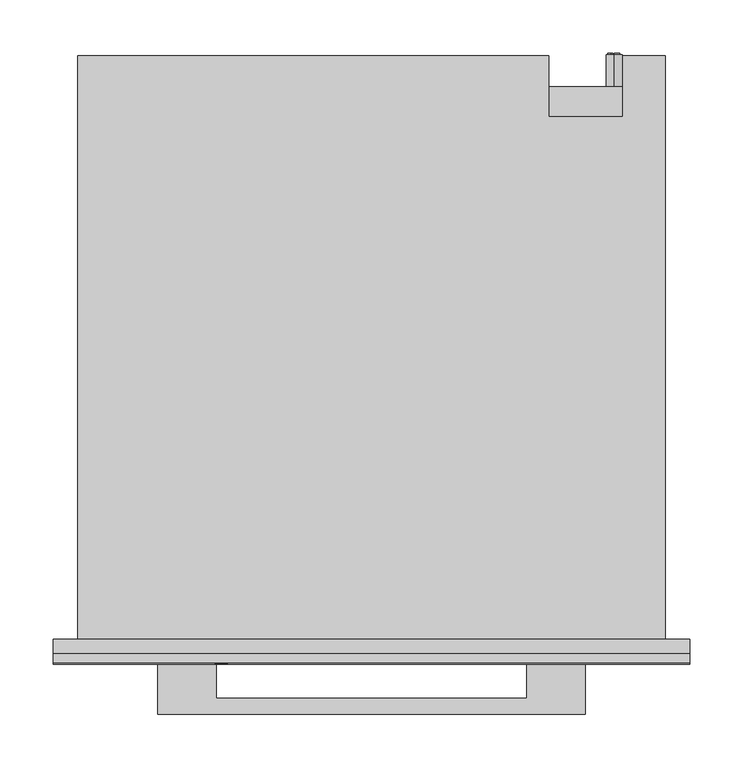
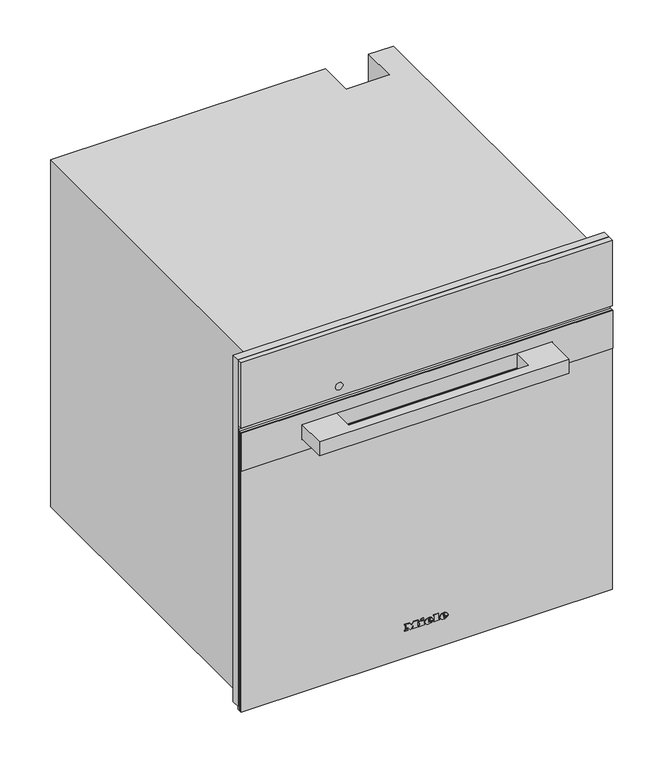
"""IFC4 building model written with IfcOpenShell, lengths in millimetres: proxy geometry, 11107260_D_DGC7860_EDST-CLST : 23786043_D_11107260_DGC7860_EDST-CLST."""

from ifc_helpers import new_model, si_unit, point, frame, frame_2d, origin, place, context, project, spatial, polyline, circle_curve, ellipse_curve, trimmed, segment, composite_curve, outline, extrude, faceted_brep, source, transform, mapped, element, save
from ifc_brep_helpers import plane_surface, cylinder_surface, revolved_surface, extruded_surface, advanced_brep


def specialty_equipment_7ab78854(model_context):
    return source(origin(), model_context, "Body", "SolidModel", [
        extrude(outline(polyline([(596.0, 297.5), (596.0, -297.5), (9.0, -297.5), (9.0, 297.5), (596.0, 297.5)]), holes=[polyline([(485.0, -272.5), (485.0, 272.5), (27.0, 272.5), (27.0, -272.5), (485.0, -272.5)])]), frame((0.0, -13.0, 0.0), z_axis=(0.0, 1.0, 0.0), x_axis=(0.0, 0.0, 1.0)), (0.0, 0.0, 1.0), 13.0),
        advanced_brep(
        [(227.0, 547.0, 396.5), (227.0, 547.0, 381.5), (221.4098301, 547.0, 384.0), (225.5, 547.0, 384.0), (225.5, 547.0, 394.0), (224.4955303, 547.0, 394.0), (224.4955303, 547.0, 385.0), (221.0315043, 547.0, 385.0), (221.0315043, 547.0, 384.4582978), (232.0, 547.0, 384.0), (232.0, 547.0, 394.0), (227.0, 547.0, 394.0), (227.0, 547.0, 393.0), (231.0, 547.0, 393.0), (231.0, 547.0, 389.5), (228.0, 547.0, 389.5), (228.0, 547.0, 388.5), (231.0, 547.0, 388.5), (231.0, 547.0, 385.0), (227.0, 547.0, 385.0), (227.0, 547.0, 384.0), (227.0, 517.0, 381.5), (227.0, 517.0, 396.5), (232.0, 548.0, 394.0), (232.0, 548.0, 384.0), (227.0, 548.0, 384.0), (227.0, 548.0, 385.0), (231.0, 548.0, 385.0), (231.0, 548.0, 388.5), (228.0, 548.0, 388.5), (228.0, 548.0, 389.5), (231.0, 548.0, 389.5), (231.0, 548.0, 393.0), (227.0, 548.0, 393.0), (227.0, 548.0, 394.0), (225.5, 548.0, 384.0), (221.0315043, 548.0, 384.0), (221.0315043, 548.0, 385.0), (224.4955303, 548.0, 385.0), (224.4955303, 548.0, 394.0), (225.5, 548.0, 394.0), (221.0315043, 547.0, 384.0)],
        [
            (0, 1, circle_curve(frame((227.0, 547.0, 389.0), z_axis=(0.0, 1.0, 0.0), x_axis=(0.0, 0.0, 1.0)), 7.5)),
            (1, 2, circle_curve(frame((227.0, 547.0, 389.0), z_axis=(0.0, 1.0, 0.0), x_axis=(0.0, 0.0, 1.0)), 7.5)),
            (2, 3),
            (3, 4),
            (4, 5),
            (5, 6),
            (6, 7),
            (7, 8),
            (8, 0, circle_curve(frame((227.0, 547.0, 389.0), z_axis=(0.0, 1.0, 0.0), x_axis=(0.0, 0.0, 1.0)), 7.5)),
            (9, 10),
            (10, 11),
            (11, 12),
            (12, 13),
            (13, 14),
            (14, 15),
            (15, 16),
            (16, 17),
            (17, 18),
            (18, 19),
            (19, 20),
            (20, 9),
            (21, 22, circle_curve(frame((227.0, 517.0, 389.0), z_axis=(0.0, -1.0, 0.0), x_axis=(0.0, 0.0, 1.0)), 7.5)),
            (22, 21, circle_curve(frame((227.0, 517.0, 389.0), z_axis=(0.0, -1.0, 0.0), x_axis=(0.0, 0.0, 1.0)), 7.5)),
            (0, 22),
            (21, 1),
            (8, 2, circle_curve(frame((227.0, 547.0, 389.0), z_axis=(0.0, -1.0, 0.0), x_axis=(0.0, 0.0, 1.0)), 7.5)),
            (23, 24),
            (24, 25),
            (25, 26),
            (26, 27),
            (27, 28),
            (28, 29),
            (29, 30),
            (30, 31),
            (31, 32),
            (32, 33),
            (33, 34),
            (34, 23),
            (35, 36),
            (36, 37),
            (37, 38),
            (38, 39),
            (39, 40),
            (40, 35),
            (8, 41),
            (41, 2),
            (23, 10),
            (9, 24),
            (20, 25),
            (19, 26),
            (18, 27),
            (17, 28),
            (16, 29),
            (15, 30),
            (14, 31),
            (13, 32),
            (12, 33),
            (11, 34),
            (35, 3),
            (41, 36),
            (7, 37),
            (6, 38),
            (5, 39),
            (4, 40),
        ],
        [
            plane_surface(frame((227.0, 547.0, 396.5), z_axis=(0.0, 1.0, 0.0), x_axis=(1.0, 0.0, 0.0))),
            plane_surface(frame((227.0, 517.0, 396.5), z_axis=(0.0, -1.0, 0.0), x_axis=(-1.0, 0.0, 0.0))),
            cylinder_surface(frame((227.0, 547.0, 389.0), z_axis=(0.0, -1.0, 0.0), x_axis=(0.0, 0.0, 1.0)), 7.5),
            plane_surface(frame((232.0, 548.0, 394.0), z_axis=(0.0, 1.0, 0.0), x_axis=(0.0, 0.0, -1.0))),
            plane_surface(frame((232.0, 547.0, 394.0), z_axis=(0.0, -1.0, 0.0), x_axis=(0.0, 0.0, 1.0))),
            plane_surface(frame((232.0, 548.0, 394.0), z_axis=(1.0, 0.0, 0.0), x_axis=(0.0, -1.0, 0.0))),
            plane_surface(frame((232.0, 548.0, 384.0), z_axis=(0.0, 0.0, -1.0), x_axis=(0.0, -1.0, 0.0))),
            plane_surface(frame((227.0, 548.0, 384.0), z_axis=(-1.0, 0.0, 0.0), x_axis=(0.0, -1.0, 0.0))),
            plane_surface(frame((227.0, 548.0, 385.0), z_axis=(0.0, 0.0, 1.0), x_axis=(0.0, -1.0, 0.0))),
            plane_surface(frame((231.0, 548.0, 385.0), z_axis=(-1.0, 0.0, 0.0), x_axis=(0.0, -1.0, 0.0))),
            plane_surface(frame((231.0, 548.0, 388.5), z_axis=(0.0, 0.0, -1.0), x_axis=(0.0, -1.0, 0.0))),
            plane_surface(frame((228.0, 548.0, 388.5), z_axis=(-1.0, 0.0, 0.0), x_axis=(0.0, -1.0, 0.0))),
            plane_surface(frame((228.0, 548.0, 389.5), z_axis=(0.0, 0.0, 1.0), x_axis=(0.0, -1.0, 0.0))),
            plane_surface(frame((231.0, 548.0, 389.5), z_axis=(-1.0, 0.0, 0.0), x_axis=(0.0, -1.0, 0.0))),
            plane_surface(frame((231.0, 548.0, 393.0), z_axis=(0.0, 0.0, -1.0), x_axis=(0.0, -1.0, 0.0))),
            plane_surface(frame((227.0, 548.0, 393.0), z_axis=(-1.0, 0.0, 0.0), x_axis=(0.0, -1.0, 0.0))),
            plane_surface(frame((227.0, 548.0, 394.0), z_axis=(0.0, 0.0, 1.0), x_axis=(0.0, -1.0, 0.0))),
            plane_surface(frame((225.5, 548.0, 384.0), z_axis=(0.0, 0.0, -1.0), x_axis=(0.0, -1.0, 0.0))),
            plane_surface(frame((221.0315043, 548.0, 384.0), z_axis=(-1.0, 0.0, 0.0), x_axis=(0.0, -1.0, 0.0))),
            plane_surface(frame((221.0315043, 548.0, 385.0), z_axis=(0.0, 0.0, 1.0), x_axis=(0.0, -1.0, 0.0))),
            plane_surface(frame((224.4955303, 548.0, 385.0), z_axis=(-1.0, 0.0, 0.0), x_axis=(0.0, -1.0, 0.0))),
            plane_surface(frame((224.4955303, 548.0, 394.0), z_axis=(0.0, 0.0, 1.0), x_axis=(0.0, -1.0, 0.0))),
            plane_surface(frame((225.5, 548.0, 394.0), z_axis=(1.0, 0.0, 0.0), x_axis=(0.0, -1.0, 0.0))),
        ],
        [
            (0, [[1, 2, 3, 4, 5, 6, 7, 8, 9], [10, 11, 12, 13, 14, 15, 16, 17, 18, 19, 20, 21]]),
            (1, [[22, 23]]),
            (2, [[-1, 24, -22, 25]]),
            (2, [[-23, -24, -9, 26, -2, -25]]),
            (3, [[27, 28, 29, 30, 31, 32, 33, 34, 35, 36, 37, 38]]),
            (3, [[39, 40, 41, 42, 43, 44]]),
            (4, [[45, 46, -26]]),
            (5, [[-27, 47, -10, 48]]),
            (6, [[-28, -48, -21, 49]]),
            (7, [[-29, -49, -20, 50]]),
            (8, [[-30, -50, -19, 51]]),
            (9, [[-31, -51, -18, 52]]),
            (10, [[-32, -52, -17, 53]]),
            (11, [[-33, -53, -16, 54]]),
            (12, [[-34, -54, -15, 55]]),
            (13, [[-35, -55, -14, 56]]),
            (14, [[-36, -56, -13, 57]]),
            (15, [[-37, -57, -12, 58]]),
            (16, [[-38, -58, -11, -47]]),
            (17, [[-39, 59, -3, -46, 60]]),
            (18, [[-40, -60, -45, -8, 61]]),
            (19, [[-41, -61, -7, 62]]),
            (20, [[-42, -62, -6, 63]]),
            (21, [[-43, -63, -5, 64]]),
            (22, [[-44, -64, -4, -59]]),
        ],
    ),
        faceted_brep([(-275.0, 546.0, 0.0), (-275.0, 546.0, 588.0), (166.0, 546.0, 588.0), (166.0, 546.0, 0.0), (235.0, 546.0, 588.0), (275.0, 546.0, 588.0), (275.0, 546.0, 478.0), (235.0, 546.0, 478.0), (275.0, 0.0, 588.0), (-275.0, 0.0, 588.0), (-275.0, 0.0, 0.0), (275.0, 0.0, 0.0), (-272.5, 0.0, 485.0), (272.5, 0.0, 485.0), (272.5, 0.0, 27.0), (-272.5, 0.0, 27.0), (235.0, 489.0, 588.0), (166.0, 489.0, 588.0), (166.0, 517.0, 0.0), (275.0, 517.0, 0.0), (275.0, 517.0, 478.0), (272.5, 17.0, 485.0), (-272.5, 17.0, 485.0), (-272.5, 17.0, 27.0), (272.5, 17.0, 27.0), (231.0, 17.0, 409.0), (231.0, 17.0, 61.0), (-231.0, 17.0, 61.0), (-231.0, 17.0, 409.0), (231.0, 411.0, 409.0), (-231.0, 411.0, 409.0), (-231.0, 411.0, 61.0), (231.0, 411.0, 61.0), (235.0, 489.0, 477.0), (166.0, 489.0, 477.0), (166.0, 517.0, 477.0), (235.0, 517.0, 477.0), (235.0, 517.0, 478.0)], [[[0, 1, 2, 3]], [[4, 5, 6, 7]], [[8, 9, 10, 11], [12, 13, 14, 15]], [[9, 8, 5, 4, 16, 17, 2, 1]], [[1, 0, 10, 9]], [[11, 10, 0, 3, 18, 19]], [[8, 11, 19, 20, 6, 5]], [[21, 22, 23, 24], [25, 26, 27, 28]], [[22, 21, 13, 12]], [[23, 22, 12, 15]], [[24, 23, 15, 14]], [[21, 24, 14, 13]], [[29, 30, 31, 32]], [[29, 32, 26, 25]], [[32, 31, 27, 26]], [[31, 30, 28, 27]], [[30, 29, 25, 28]], [[16, 33, 34, 17]], [[17, 34, 35, 18, 3, 2]], [[34, 33, 36, 35]], [[33, 16, 4, 7, 37, 36]], [[37, 20, 19, 18, 35, 36]], [[20, 37, 7, 6]]]),
        advanced_brep(
        [(26.2998, -23.0, 52.7018), (26.2998, -23.0, 53.8532), (33.9264, -23.0, 53.8532), (20.6568, -23.0, 53.8532), (23.7918, -23.0, 50.0), (33.7326, -23.0, 52.7018), (30.2898, -23.0, 52.7018), (27.5766, -23.0, 51.425), (26.2998, -23.0, 55.3124), (26.2998, -23.0, 56.555), (28.2492, -23.0, 56.555), (28.2492, -23.0, 55.3124), (26.2998, -22.0, 52.7018), (27.5766, -22.0, 51.425), (30.2898, -22.0, 52.7018), (33.7326, -22.0, 52.7018), (23.7918, -22.0, 50.0), (20.6568, -22.0, 53.8532), (33.9264, -22.0, 53.8532), (26.2998, -22.0, 53.8532), (26.2998, -22.0, 55.3124), (28.2492, -22.0, 55.3124), (28.2492, -22.0, 56.555), (26.2998, -22.0, 56.555)],
        [
            (0, 1),
            (1, 2),
            (2, 3, ellipse_curve(frame((27.2916, -23.0, 53.8532), z_axis=(0.0, -1.0, 0.0), x_axis=(-1.0, 0.0, 0.0)), 6.6348, 5.4834)),
            (3, 4, circle_curve(frame((25.0686622, -23.0, 54.2408), z_axis=(0.0, -1.0, 0.0), x_axis=(0.0, 0.0, -1.0)), 4.4288556)),
            (4, 5, circle_curve(frame((27.1587808, -23.0, 57.2504), z_axis=(0.0, -1.0, 0.0), x_axis=(0.0, 0.0, -1.0)), 7.9940516)),
            (5, 6),
            (6, 7, circle_curve(frame((28.1338588, -23.0, 53.762), z_axis=(0.0, 1.0, 0.0), x_axis=(0.0, 0.0, -1.0)), 2.4025208)),
            (7, 0, circle_curve(frame((27.5766, -23.0, 52.7018), z_axis=(0.0, 1.0, 0.0), x_axis=(0.0, 0.0, -1.0)), 1.2768)),
            (8, 9),
            (9, 10, circle_curve(frame((27.2745, -23.0, 56.555), z_axis=(0.0, 1.0, 0.0), x_axis=(0.0, 0.0, -1.0)), 0.9747)),
            (10, 11),
            (11, 8),
            (12, 13, circle_curve(frame((27.5766, -22.0, 52.7018), z_axis=(0.0, -1.0, 0.0), x_axis=(0.0, 0.0, -1.0)), 1.2768)),
            (13, 14, circle_curve(frame((28.1338588, -22.0, 53.762), z_axis=(0.0, -1.0, 0.0), x_axis=(0.0, 0.0, -1.0)), 2.4025208)),
            (14, 15),
            (15, 16, circle_curve(frame((27.1587808, -22.0, 57.2504), z_axis=(0.0, 1.0, 0.0), x_axis=(0.0, 0.0, -1.0)), 7.9940516)),
            (16, 17, circle_curve(frame((25.0686622, -22.0, 54.2408), z_axis=(0.0, 1.0, 0.0), x_axis=(0.0, 0.0, -1.0)), 4.4288556)),
            (17, 18, ellipse_curve(frame((27.2916, -22.0, 53.8532), z_axis=(0.0, 1.0, 0.0), x_axis=(-1.0, 0.0, 0.0)), 6.6348, 5.4834)),
            (18, 19),
            (19, 12),
            (20, 21),
            (21, 22),
            (22, 23, circle_curve(frame((27.2745, -22.0, 56.555), z_axis=(0.0, -1.0, 0.0), x_axis=(0.0, 0.0, -1.0)), 0.9747)),
            (23, 20),
            (0, 12),
            (19, 1),
            (18, 2),
            (5, 15),
            (14, 6),
            (17, 3),
            (13, 7),
            (16, 4),
            (8, 20),
            (23, 9),
            (22, 10),
            (21, 11),
        ],
        [
            plane_surface(frame((26.2998, -23.0, 53.8532), z_axis=(0.0, -1.0, 0.0), x_axis=(0.0, 0.0, 1.0))),
            plane_surface(frame((26.2998, -22.0, 53.8532), z_axis=(0.0, 1.0, 0.0), x_axis=(0.0, 0.0, -1.0))),
            plane_surface(frame((26.2998, -23.0, 52.7018), z_axis=(1.0, 0.0, 0.0), x_axis=(0.0, 1.0, 0.0))),
            plane_surface(frame((26.2998, -23.0, 53.8532), z_axis=(0.0, 0.0, -1.0), x_axis=(0.0, 1.0, 0.0))),
            plane_surface(frame((33.7326, -23.0, 52.7018), z_axis=(0.0, 0.0, 1.0), x_axis=(0.0, 1.0, 0.0))),
            extruded_surface(trimmed(ellipse_curve(frame((27.2916, -21.0, 53.8532), z_axis=(0.0, -1.0, 0.0), x_axis=(-1.0, 0.0, 0.0)), 6.6348, 5.4834), [point((33.9264, -21.0, 53.8532))], [point((20.6568, -21.0, 53.8532))], True, "CARTESIAN"), (0.0, -1.0, 0.0), 1.0),
            revolved_surface(polyline([(28.1338588, -22.0, 51.3594792), (28.1338588, -23.0, 51.3594792)]), (28.1338588, -22.0, 53.762), (0.0, 1.0, 0.0)),
            revolved_surface(polyline([(27.5766, -22.0, 51.425), (27.5766, -23.0, 51.425)]), (27.5766, -22.0, 52.7018), (0.0, 1.0, 0.0)),
            cylinder_surface(frame((25.0686622, -22.0, 54.2408), z_axis=(0.0, -1.0, 0.0), x_axis=(0.0, 0.0, -1.0)), 4.4288556),
            cylinder_surface(frame((27.1587808, -22.0, 57.2504), z_axis=(0.0, -1.0, 0.0), x_axis=(0.0, 0.0, -1.0)), 7.9940516),
            plane_surface(frame((26.2998, -23.0, 55.3124), z_axis=(1.0, 0.0, 0.0), x_axis=(0.0, 1.0, 0.0))),
            revolved_surface(polyline([(27.2745, -22.0, 55.5803), (27.2745, -23.0, 55.5803)]), (27.2745, -22.0, 56.555), (0.0, 1.0, 0.0)),
            plane_surface(frame((28.2492, -23.0, 56.555), z_axis=(-1.0, 0.0, 0.0), x_axis=(0.0, 1.0, 0.0))),
            plane_surface(frame((28.2492, -23.0, 55.3124), z_axis=(0.0, 0.0, 1.0), x_axis=(0.0, 1.0, 0.0))),
        ],
        [
            (0, [[1, 2, 3, 4, 5, 6, 7, 8], [9, 10, 11, 12]]),
            (1, [[13, 14, 15, 16, 17, 18, 19, 20], [21, 22, 23, 24]]),
            (2, [[-1, 25, -20, 26]]),
            (3, [[-2, -26, -19, 27]]),
            (4, [[-6, 28, -15, 29]]),
            (5, [[-3, -27, -18, 30]]),
            (6, [[-7, -29, -14, 31]]),
            (7, [[-8, -31, -13, -25]]),
            (8, [[-4, -30, -17, 32]]),
            (9, [[-5, -32, -16, -28]]),
            (10, [[-9, 33, -24, 34]]),
            (11, [[-10, -34, -23, 35]]),
            (12, [[-11, -35, -22, 36]]),
            (13, [[-12, -36, -21, -33]]),
        ],
    ),
        advanced_brep(
        [(2.508, -23.0, 52.7018), (2.508, -23.0, 53.8532), (10.1346, -23.0, 53.8532), (-3.135, -23.0, 53.8532), (0.0, -23.0, 50.0), (9.9408, -23.0, 52.7018), (6.498, -23.0, 52.7018), (3.7848, -23.0, 51.425), (2.508, -23.0, 55.3124), (2.508, -23.0, 56.555), (4.4574, -23.0, 56.555), (4.4574, -23.0, 55.3124), (2.508, -22.0, 52.7018), (3.7848, -22.0, 51.425), (6.498, -22.0, 52.7018), (9.9408, -22.0, 52.7018), (0.0, -22.0, 50.0), (-3.135, -22.0, 53.8532), (10.1346, -22.0, 53.8532), (2.508, -22.0, 53.8532), (2.508, -22.0, 55.3124), (4.4574, -22.0, 55.3124), (4.4574, -22.0, 56.555), (2.508, -22.0, 56.555)],
        [
            (0, 1),
            (1, 2),
            (2, 3, ellipse_curve(frame((3.4998, -23.0, 53.8532), z_axis=(0.0, -1.0, 0.0), x_axis=(-1.0, 0.0, 0.0)), 6.6348, 5.4834)),
            (3, 4, circle_curve(frame((1.2768622, -23.0, 54.2408), z_axis=(0.0, -1.0, 0.0), x_axis=(0.0, 0.0, -1.0)), 4.4288556)),
            (4, 5, circle_curve(frame((3.3669808, -23.0, 57.2504), z_axis=(0.0, -1.0, 0.0), x_axis=(0.0, 0.0, -1.0)), 7.9940516)),
            (5, 6),
            (6, 7, circle_curve(frame((4.3420588, -23.0, 53.762), z_axis=(0.0, 1.0, 0.0), x_axis=(0.0, 0.0, -1.0)), 2.4025208)),
            (7, 0, circle_curve(frame((3.7848, -23.0, 52.7018), z_axis=(0.0, 1.0, 0.0), x_axis=(0.0, 0.0, -1.0)), 1.2768)),
            (8, 9),
            (9, 10, circle_curve(frame((3.4827, -23.0, 56.555), z_axis=(0.0, 1.0, 0.0), x_axis=(0.0, 0.0, -1.0)), 0.9747)),
            (10, 11),
            (11, 8),
            (12, 13, circle_curve(frame((3.7848, -22.0, 52.7018), z_axis=(0.0, -1.0, 0.0), x_axis=(0.0, 0.0, -1.0)), 1.2768)),
            (13, 14, circle_curve(frame((4.3420588, -22.0, 53.762), z_axis=(0.0, -1.0, 0.0), x_axis=(0.0, 0.0, -1.0)), 2.4025208)),
            (14, 15),
            (15, 16, circle_curve(frame((3.3669808, -22.0, 57.2504), z_axis=(0.0, 1.0, 0.0), x_axis=(0.0, 0.0, -1.0)), 7.9940516)),
            (16, 17, circle_curve(frame((1.2768622, -22.0, 54.2408), z_axis=(0.0, 1.0, 0.0), x_axis=(0.0, 0.0, -1.0)), 4.4288556)),
            (17, 18, ellipse_curve(frame((3.4998, -22.0, 53.8532), z_axis=(0.0, 1.0, 0.0), x_axis=(-1.0, 0.0, 0.0)), 6.6348, 5.4834)),
            (18, 19),
            (19, 12),
            (20, 21),
            (21, 22),
            (22, 23, circle_curve(frame((3.4827, -22.0, 56.555), z_axis=(0.0, -1.0, 0.0), x_axis=(0.0, 0.0, -1.0)), 0.9747)),
            (23, 20),
            (0, 12),
            (19, 1),
            (18, 2),
            (5, 15),
            (14, 6),
            (17, 3),
            (13, 7),
            (16, 4),
            (8, 20),
            (23, 9),
            (22, 10),
            (21, 11),
        ],
        [
            plane_surface(frame((2.508, -23.0, 53.8532), z_axis=(0.0, -1.0, 0.0), x_axis=(0.0, 0.0, 1.0))),
            plane_surface(frame((2.508, -22.0, 53.8532), z_axis=(0.0, 1.0, 0.0), x_axis=(0.0, 0.0, -1.0))),
            plane_surface(frame((2.508, -23.0, 52.7018), z_axis=(1.0, 0.0, 0.0), x_axis=(0.0, 1.0, 0.0))),
            plane_surface(frame((2.508, -23.0, 53.8532), z_axis=(0.0, 0.0, -1.0), x_axis=(0.0, 1.0, 0.0))),
            plane_surface(frame((9.9408, -23.0, 52.7018), z_axis=(0.0, 0.0, 1.0), x_axis=(0.0, 1.0, 0.0))),
            extruded_surface(trimmed(ellipse_curve(frame((3.4998, -21.0, 53.8532), z_axis=(0.0, -1.0, 0.0), x_axis=(-1.0, 0.0, 0.0)), 6.6348, 5.4834), [point((10.1346, -21.0, 53.8532))], [point((-3.135, -21.0, 53.8532))], True, "CARTESIAN"), (0.0, -1.0, 0.0), 1.0),
            revolved_surface(polyline([(4.3420588, -22.0, 51.3594792), (4.3420588, -23.0, 51.3594792)]), (4.3420588, -22.0, 53.762), (0.0, 1.0, 0.0)),
            revolved_surface(polyline([(3.7848, -22.0, 51.425), (3.7848, -23.0, 51.425)]), (3.7848, -22.0, 52.7018), (0.0, 1.0, 0.0)),
            cylinder_surface(frame((1.2768622, -22.0, 54.2408), z_axis=(0.0, -1.0, 0.0), x_axis=(0.0, 0.0, -1.0)), 4.4288556),
            cylinder_surface(frame((3.3669808, -22.0, 57.2504), z_axis=(0.0, -1.0, 0.0), x_axis=(0.0, 0.0, -1.0)), 7.9940516),
            plane_surface(frame((2.508, -23.0, 55.3124), z_axis=(1.0, 0.0, 0.0), x_axis=(0.0, 1.0, 0.0))),
            revolved_surface(polyline([(3.4827, -22.0, 55.5803), (3.4827, -23.0, 55.5803)]), (3.4827, -22.0, 56.555), (0.0, 1.0, 0.0)),
            plane_surface(frame((4.4574, -23.0, 56.555), z_axis=(-1.0, 0.0, 0.0), x_axis=(0.0, 1.0, 0.0))),
            plane_surface(frame((4.4574, -23.0, 55.3124), z_axis=(0.0, 0.0, 1.0), x_axis=(0.0, 1.0, 0.0))),
        ],
        [
            (0, [[1, 2, 3, 4, 5, 6, 7, 8], [9, 10, 11, 12]]),
            (1, [[13, 14, 15, 16, 17, 18, 19, 20], [21, 22, 23, 24]]),
            (2, [[-1, 25, -20, 26]]),
            (3, [[-2, -26, -19, 27]]),
            (4, [[-6, 28, -15, 29]]),
            (5, [[-3, -27, -18, 30]]),
            (6, [[-7, -29, -14, 31]]),
            (7, [[-8, -31, -13, -25]]),
            (8, [[-4, -30, -17, 32]]),
            (9, [[-5, -32, -16, -28]]),
            (10, [[-9, 33, -24, 34]]),
            (11, [[-10, -34, -23, 35]]),
            (12, [[-11, -35, -22, 36]]),
            (13, [[-12, -36, -21, -33]]),
        ],
    ),
        extrude(outline(polyline([(60.7274, -9.9522), (58.8806, -9.0858), (60.6818, -5.2212), (62.5286, -6.0762), (60.7274, -9.9522)])), frame((0.0, -23.0, 0.0), z_axis=(0.0, 1.0, 0.0), x_axis=(0.0, 0.0, 1.0)), (0.0, 0.0, 1.0), 1.0),
        extrude(outline(polyline([(58.6298, -12.768), (56.5892, -12.768), (56.5892, -11.4114), (51.9152, -11.4114), (51.9152, -12.768), (50.0, -12.768), (50.0, -3.7734), (51.9152, -3.7734), (51.9152, -5.0958), (58.6298, -5.0958), (58.6298, -12.768)])), frame((0.0, -23.0, 0.0), z_axis=(0.0, 1.0, 0.0), x_axis=(0.0, 0.0, 1.0)), (0.0, 0.0, 1.0), 1.0),
        extrude(outline(polyline([(59.5418, 10.773), (59.5418, 12.141), (51.9152, 12.141), (51.9152, 10.773), (50.0, 10.773), (50.0, 20.0184), (51.9152, 20.0184), (51.9152, 18.6162), (61.4, 18.6162), (61.4, 10.773), (59.5418, 10.773)])), frame((0.0, -23.0, 0.0), z_axis=(0.0, 1.0, 0.0), x_axis=(0.0, 0.0, 1.0)), (0.0, 0.0, 1.0), 1.0),
        extrude(outline(polyline([(59.5418, -35.4882), (59.5418, -34.1088), (51.9152, -34.1088), (51.9152, -35.4882), (50.0, -35.4882), (50.0, -30.4722), (51.9152, -30.4722), (51.9152, -31.8402), (56.7429247, -31.8402), (50.0, -26.7444), (56.9402223, -21.6258), (51.9152, -21.6258), (51.9152, -23.028), (50.0, -23.028), (50.0, -13.9308), (51.9152, -13.9308), (51.9152, -15.3786), (59.5418, -15.3786), (59.5418, -13.9308), (61.4, -13.9308), (61.4, -20.8734), (57.125, -24.2022), (61.4, -27.5424), (61.4, -35.4882), (59.5418, -35.4882)])), frame((0.0, -23.0, 0.0), z_axis=(0.0, 1.0, 0.0), x_axis=(0.0, 0.0, 1.0)), (0.0, 0.0, 1.0), 1.0),
        extrude(outline(polyline([(297.5, -22.0), (-297.5, -22.0), (-297.5, -13.0), (297.5, -13.0), (297.5, -22.0)])), frame((0.0, 0.0, 485.0), z_axis=(0.0, 0.0, 1.0), x_axis=(1.0, 0.0, 0.0)), (0.0, 0.0, 1.0), 111.0),
        extrude(outline(composite_curve([segment(trimmed(circle_curve(frame_2d((502.0, -140.5745637)), 6.0), [point((502.0, -146.5745637))], [point((502.0, -134.5745637))], False, "CARTESIAN"), True, "CONTINUOUS"), segment(trimmed(circle_curve(frame_2d((502.0, -140.5745637)), 6.0), [point((502.0, -134.5745637))], [point((502.0, -146.5745637))], False, "CARTESIAN"), True, "CONTINUOUS")], self_intersect=False)), frame((0.0, -22.5, 0.0), z_axis=(0.0, 1.0, 0.0), x_axis=(0.0, 0.0, 1.0)), (0.0, 0.0, 1.0), 1.0),
        extrude(outline(polyline([(478.0, 297.5), (478.0, -297.5), (413.0, -297.5), (413.0, 297.5), (478.0, 297.5)]), holes=[polyline([(458.0, -200.5), (458.0, 200.5), (433.0, 200.5), (433.0, -200.5), (458.0, -200.5)])]), frame((0.0, -23.3, 0.0), z_axis=(0.0, 1.0, 0.0), x_axis=(0.0, 0.0, 1.0)), (0.0, 0.0, 1.0), 1.3),
        extrude(outline(polyline([(-200.0, -70.3), (-200.0, -22.0), (-145.0, -22.0), (-145.0, -55.3), (145.0, -55.3), (145.0, -22.0), (200.0, -22.0), (200.0, -70.3), (-200.0, -70.3)])), frame((0.0, 0.0, 433.5), z_axis=(0.0, 0.0, 1.0), x_axis=(1.0, 0.0, 0.0)), (0.0, 0.0, 1.0), 24.0),
        extrude(outline(polyline([(-297.5, -18.0), (297.5, -18.0), (297.5, -22.0), (-297.5, -22.0), (-297.5, -18.0)])), frame((0.0, 0.0, 4.0), z_axis=(0.0, 0.0, 1.0), x_axis=(1.0, 0.0, 0.0)), (0.0, 0.0, 1.0), 474.0),
        extrude(outline(polyline([(297.5, -18.0), (-297.5, -18.0), (-297.5, -13.0), (297.5, -13.0), (297.5, -18.0)])), frame((0.0, 0.0, 4.0), z_axis=(0.0, 0.0, 1.0), x_axis=(1.0, 0.0, 0.0)), (0.0, 0.0, 1.0), 474.0),
    ])


if __name__ == "__main__":
    model = new_model("IFC4")
    model_context = context("Model", 3, world=origin())
    ifc_project = project(units=[si_unit("LENGTHUNIT", "METRE", prefix="MILLI")], contexts=[model_context])
    site = spatial("IfcSite", under=ifc_project)
    building = spatial("IfcBuilding", under=site)
    placement = place(None, origin())
    specialty_equipment_shape = specialty_equipment_7ab78854(model_context)
    element("IfcBuildingElementProxy", 1, Name="11107260_D_DGC7860_EDST-CLST : 23786043_D_11107260_DGC7860_EDST-CLST", ObjectType="11107260_D_DGC7860_EDST-CLST : 23786043_D_11107260_DGC7860_EDST-CLST", at=placement, inside=building, context=model_context, shape_type="MappedRepresentation", body=[
        mapped(specialty_equipment_shape, transform((0.0, 0.0, 0.0), x_axis=(1.0, 0.0, 0.0), y_axis=(0.0, 1.0, 0.0), z_axis=(0.0, 0.0, 1.0))),
    ])
    save(model, "model.ifc")
